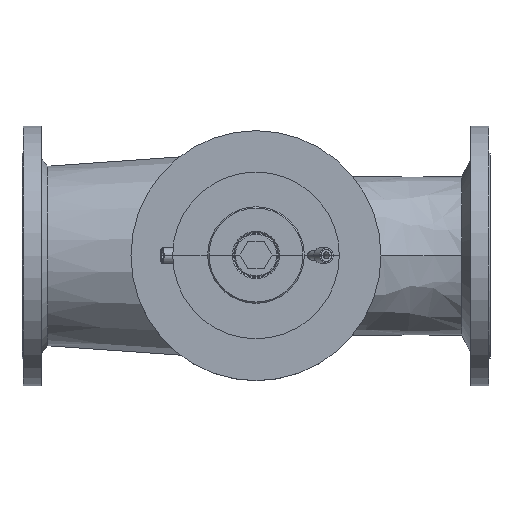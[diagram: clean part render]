
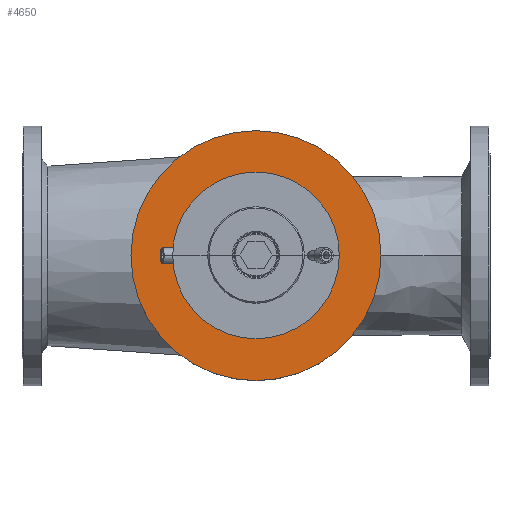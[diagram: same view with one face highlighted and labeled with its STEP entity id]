
A CAD part, top view. The second image highlights one B-rep face of the part: STEP entity #4650.
In plain terms, the highlighted planar face has unit normal (0, 0, 1).
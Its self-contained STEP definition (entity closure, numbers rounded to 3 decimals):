
#852=FACE_BOUND('',#1289,.T.);
#934=FACE_OUTER_BOUND('',#1288,.T.);
#1288=EDGE_LOOP('',(#3299,#3300));
#1289=EDGE_LOOP('',(#3301,#3302));
#1647=CIRCLE('',#5115,195.);
#1648=CIRCLE('',#5116,195.);
#1649=CIRCLE('',#5117,72.5);
#1650=CIRCLE('',#5118,72.5);
#2039=VERTEX_POINT('',#7545);
#2040=VERTEX_POINT('',#7546);
#2041=VERTEX_POINT('',#7549);
#2042=VERTEX_POINT('',#7550);
#2465=EDGE_CURVE('',#2039,#2040,#1647,.T.);
#2466=EDGE_CURVE('',#2040,#2039,#1648,.T.);
#2467=EDGE_CURVE('',#2041,#2042,#1649,.T.);
#2468=EDGE_CURVE('',#2042,#2041,#1650,.T.);
#3299=ORIENTED_EDGE('',*,*,#2465,.T.);
#3300=ORIENTED_EDGE('',*,*,#2466,.T.);
#3301=ORIENTED_EDGE('',*,*,#2467,.T.);
#3302=ORIENTED_EDGE('',*,*,#2468,.T.);
#4191=PLANE('',#5114);
#4650=ADVANCED_FACE('',(#934,#852),#4191,.T.);
#5114=AXIS2_PLACEMENT_3D('',#7544,#6041,#6042);
#5115=AXIS2_PLACEMENT_3D('',#7547,#6043,#6044);
#5116=AXIS2_PLACEMENT_3D('',#7548,#6045,#6046);
#5117=AXIS2_PLACEMENT_3D('',#7551,#6047,#6048);
#5118=AXIS2_PLACEMENT_3D('',#7552,#6049,#6050);
#6041=DIRECTION('center_axis',(0.,0.,1.));
#6042=DIRECTION('ref_axis',(0.,1.,0.));
#6043=DIRECTION('center_axis',(0.,0.,1.));
#6044=DIRECTION('ref_axis',(1.,0.,0.));
#6045=DIRECTION('center_axis',(0.,0.,1.));
#6046=DIRECTION('ref_axis',(1.,0.,0.));
#6047=DIRECTION('center_axis',(0.,0.,-1.));
#6048=DIRECTION('ref_axis',(1.,0.,0.));
#6049=DIRECTION('center_axis',(0.,0.,-1.));
#6050=DIRECTION('ref_axis',(1.,0.,0.));
#7544=CARTESIAN_POINT('Origin',(195.,0.,284.));
#7545=CARTESIAN_POINT('',(-195.,0.,284.));
#7546=CARTESIAN_POINT('',(195.,0.,284.));
#7547=CARTESIAN_POINT('Origin',(0.,0.,284.));
#7548=CARTESIAN_POINT('Origin',(0.,0.,284.));
#7549=CARTESIAN_POINT('',(-72.5,0.,284.));
#7550=CARTESIAN_POINT('',(72.5,0.,284.));
#7551=CARTESIAN_POINT('Origin',(0.,0.,284.));
#7552=CARTESIAN_POINT('Origin',(0.,0.,284.));
